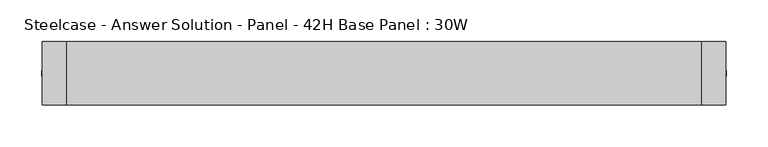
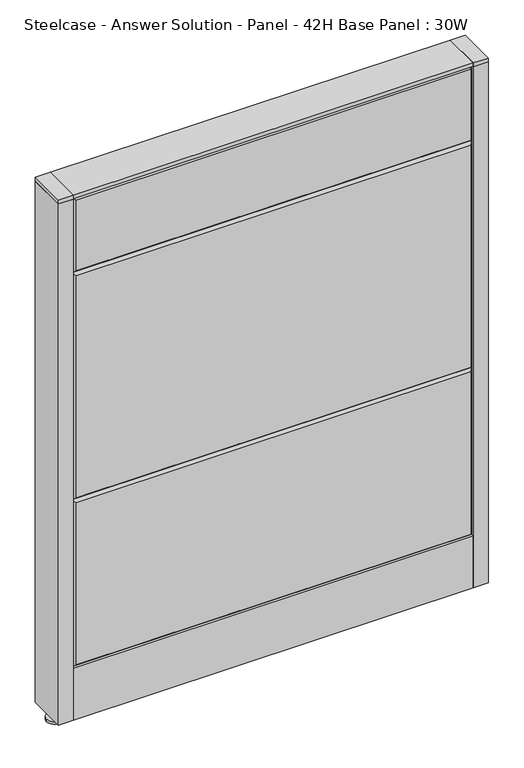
"""IFC4 building model written with IfcOpenShell, lengths in millimetres: furniture geometry, Steelcase - Answer Solution - Panel - 42H Base Panel : 30W."""

from ifc_helpers import new_model, si_unit, point, frame, frame_2d, origin, place, context, project, spatial, polyline, circle_curve, trimmed, segment, composite_curve, outline, extrude, faceted_brep, source, transform, mapped, element, save


def steelcase_answer_solution_panel_42h_base_panel_30w_edfee1cb(model_context):
    return source(origin(), model_context, "Body", "SolidModel", [
        extrude(outline(composite_curve([segment(trimmed(circle_curve(frame_2d((395.224, 0.0039657)), 5.08), [point((400.304, 0.0039657))], [point((390.144, 0.0039657))], False, "CARTESIAN"), True, "CONTINUOUS"), segment(trimmed(circle_curve(frame_2d((395.224, 0.0039657)), 5.08), [point((390.144, 0.0039657))], [point((400.304, 0.0039657))], False, "CARTESIAN"), True, "CONTINUOUS")], self_intersect=False)), frame((0.0, 0.0, 5.0799671), z_axis=(0.0, 0.0, 1.0), x_axis=(1.0, 0.0, 0.0)), (0.0, 0.0, 1.0), 10.414),
        extrude(outline(composite_curve([segment(trimmed(circle_curve(frame_2d((395.224, 0.0039657)), 15.24), [point((410.464, 0.0039657))], [point((379.984, 0.0039657))], False, "CARTESIAN"), True, "CONTINUOUS"), segment(trimmed(circle_curve(frame_2d((395.224, 0.0039657)), 15.24), [point((379.984, 0.0039657))], [point((410.464, 0.0039657))], False, "CARTESIAN"), True, "CONTINUOUS")], self_intersect=False)), frame((0.0, 0.0, -3.29e-05), z_axis=(0.0, 0.0, 1.0), x_axis=(1.0, 0.0, 0.0)), (0.0, 0.0, 1.0), 5.08),
        extrude(outline(polyline([(409.575, 38.1039851), (409.575, -38.0960149), (381.0, -38.0960149), (381.0, 38.1039851), (409.575, 38.1039851)])), frame((0.0, 0.0, 1065.8348), z_axis=(0.0, 0.0, 1.0), x_axis=(1.0, 0.0, 0.0)), (0.0, 0.0, 1.0), 7.3151671),
        extrude(outline(polyline([(409.575, 38.1039851), (409.575, -38.0960149), (381.0, -38.0960149), (381.0, 38.1039851), (409.575, 38.1039851)])), frame((0.0, 0.0, 15.4939671), z_axis=(0.0, 0.0, 1.0), x_axis=(1.0, 0.0, 0.0)), (0.0, 0.0, 1.0), 1050.3408329),
        extrude(outline(composite_curve([segment(trimmed(circle_curve(frame_2d((-395.224, 0.0039657)), 5.08), [point((-400.304, 0.0039657))], [point((-390.144, 0.0039657))], False, "CARTESIAN"), True, "CONTINUOUS"), segment(trimmed(circle_curve(frame_2d((-395.224, 0.0039657)), 5.08), [point((-390.144, 0.0039657))], [point((-400.304, 0.0039657))], False, "CARTESIAN"), True, "CONTINUOUS")], self_intersect=False)), frame((0.0, 0.0, 5.0799671), z_axis=(0.0, 0.0, 1.0), x_axis=(1.0, 0.0, 0.0)), (0.0, 0.0, 1.0), 10.414),
        extrude(outline(composite_curve([segment(trimmed(circle_curve(frame_2d((-395.224, 0.0039657)), 15.24), [point((-410.464, 0.0039657))], [point((-379.984, 0.0039657))], False, "CARTESIAN"), True, "CONTINUOUS"), segment(trimmed(circle_curve(frame_2d((-395.224, 0.0039657)), 15.24), [point((-379.984, 0.0039657))], [point((-410.464, 0.0039657))], False, "CARTESIAN"), True, "CONTINUOUS")], self_intersect=False)), frame((0.0, 0.0, -3.29e-05), z_axis=(0.0, 0.0, 1.0), x_axis=(1.0, 0.0, 0.0)), (0.0, 0.0, 1.0), 5.08),
        extrude(outline(polyline([(-409.575, 38.1039851), (-381.0, 38.1039851), (-381.0, -38.0960149), (-409.575, -38.0960149), (-409.575, 38.1039851)])), frame((0.0, 0.0, 1065.8348), z_axis=(0.0, 0.0, 1.0), x_axis=(1.0, 0.0, 0.0)), (0.0, 0.0, 1.0), 7.3151671),
        extrude(outline(polyline([(-409.575, 38.1039851), (-381.0, 38.1039851), (-381.0, -38.0960149), (-409.575, -38.0960149), (-409.575, 38.1039851)])), frame((0.0, 0.0, 15.4939671), z_axis=(0.0, 0.0, 1.0), x_axis=(1.0, 0.0, 0.0)), (0.0, 0.0, 1.0), 1050.3408329),
        faceted_brep([(-376.174, 38.1635011, 1061.974), (376.174, 38.1635011, 1061.974), (376.174, 38.1635011, 919.226), (-376.174, 38.1635011, 919.226), (-381.0, 33.3375011, 1066.8), (-381.0, 33.3375011, 914.4), (381.0, 33.3375011, 914.4), (381.0, 33.3375011, 1066.8)], [[[0, 1, 2, 3]], [[4, 5, 6, 7]], [[4, 7, 1, 0]], [[7, 6, 2, 1]], [[6, 5, 3, 2]], [[5, 4, 0, 3]]]),
        faceted_brep([(-376.174, 38.1635011, 909.574), (376.174, 38.1635011, 909.574), (376.174, 38.1635011, 462.026), (-376.174, 38.1635011, 462.026), (-381.0, 33.3375011, 914.4), (-381.0, 33.3375011, 457.2), (381.0, 33.3375011, 457.2), (381.0, 33.3375011, 914.4)], [[[0, 1, 2, 3]], [[4, 5, 6, 7]], [[4, 7, 1, 0]], [[7, 6, 2, 1]], [[6, 5, 3, 2]], [[5, 4, 0, 3]]]),
        faceted_brep([(-376.174, 38.1635011, 452.374), (376.174, 38.1635011, 452.374), (376.174, 38.1635011, 125.476), (-376.174, 38.1635011, 125.476), (-381.0, 33.3375011, 457.2), (-381.0, 33.3375011, 120.65), (381.0, 33.3375011, 120.65), (381.0, 33.3375011, 457.2)], [[[0, 1, 2, 3]], [[4, 5, 6, 7]], [[4, 7, 1, 0]], [[7, 6, 2, 1]], [[6, 5, 3, 2]], [[5, 4, 0, 3]]]),
        faceted_brep([(376.174, -38.1635011, 1061.974), (-376.174, -38.1635011, 1061.974), (-376.174, -38.1635011, 919.226), (376.174, -38.1635011, 919.226), (381.0, -33.3375011, 1066.8), (381.0, -33.3375011, 914.4), (-381.0, -33.3375011, 914.4), (-381.0, -33.3375011, 1066.8)], [[[0, 1, 2, 3]], [[4, 5, 6, 7]], [[4, 7, 1, 0]], [[7, 6, 2, 1]], [[6, 5, 3, 2]], [[5, 4, 0, 3]]]),
        faceted_brep([(376.174, -38.1635011, 909.574), (-376.174, -38.1635011, 909.574), (-376.174, -38.1635011, 462.026), (376.174, -38.1635011, 462.026), (381.0, -33.3375011, 914.4), (381.0, -33.3375011, 457.2), (-381.0, -33.3375011, 457.2), (-381.0, -33.3375011, 914.4)], [[[0, 1, 2, 3]], [[4, 5, 6, 7]], [[4, 7, 1, 0]], [[7, 6, 2, 1]], [[6, 5, 3, 2]], [[5, 4, 0, 3]]]),
        faceted_brep([(376.174, -38.1635011, 452.374), (-376.174, -38.1635011, 452.374), (-376.174, -38.1635011, 125.476), (376.174, -38.1635011, 125.476), (381.0, -33.3375011, 457.2), (381.0, -33.3375011, 120.65), (-381.0, -33.3375011, 120.65), (-381.0, -33.3375011, 457.2)], [[[0, 1, 2, 3]], [[4, 5, 6, 7]], [[4, 7, 1, 0]], [[7, 6, 2, 1]], [[6, 5, 3, 2]], [[5, 4, 0, 3]]]),
        extrude(outline(polyline([(381.0, 38.1000194), (381.0, -38.1000194), (-381.0, -38.1000194), (-381.0, 38.1000194), (381.0, 38.1000194)])), frame((0.0, 0.0, 1066.8), z_axis=(0.0, 0.0, 1.0), x_axis=(1.0, 0.0, 0.0)), (0.0, 0.0, 1.0), 6.35),
        extrude(outline(polyline([(25.4000011, 119.8575157), (25.4000011, 120.65), (38.1000194, 120.65), (38.1000194, 15.494), (37.3075215, 15.494), (37.3075215, 119.8575157), (25.4000011, 119.8575157)])), frame((-381.0, 0.0, 0.0), z_axis=(1.0, 0.0, 0.0), x_axis=(0.0, 1.0, 0.0)), (0.0, 0.0, 1.0), 762.0),
        extrude(outline(polyline([(-25.4000011, 119.8575157), (-37.3075215, 119.8575157), (-37.3075215, 15.494), (-38.1000194, 15.494), (-38.1000194, 120.65), (-25.4000011, 120.65), (-25.4000011, 119.8575157)])), frame((-381.0, 0.0, 0.0), z_axis=(1.0, 0.0, 0.0), x_axis=(0.0, 1.0, 0.0)), (0.0, 0.0, 1.0), 762.0),
    ])


if __name__ == "__main__":
    model = new_model("IFC4")
    model_context = context("Model", 3, world=origin())
    ifc_project = project(units=[si_unit("LENGTHUNIT", "METRE", prefix="MILLI")], contexts=[model_context])
    site = spatial("IfcSite", under=ifc_project)
    building = spatial("IfcBuilding", under=site)
    placement = place(None, origin())
    steelcase_answer_solution_panel_42h_base_panel_30w_shape = steelcase_answer_solution_panel_42h_base_panel_30w_edfee1cb(model_context)
    element("IfcFurniture", 1, ObjectType="Steelcase - Answer Solution - Panel - 42H Base Panel : 30W", at=placement, inside=building, context=model_context, shape_type="MappedRepresentation", body=[
        mapped(steelcase_answer_solution_panel_42h_base_panel_30w_shape, transform((0.0, 0.0, 0.0), x_axis=(1.0, 0.0, 0.0), y_axis=(0.0, 1.0, 0.0), z_axis=(0.0, 0.0, 1.0))),
    ])
    save(model, "model.ifc")
